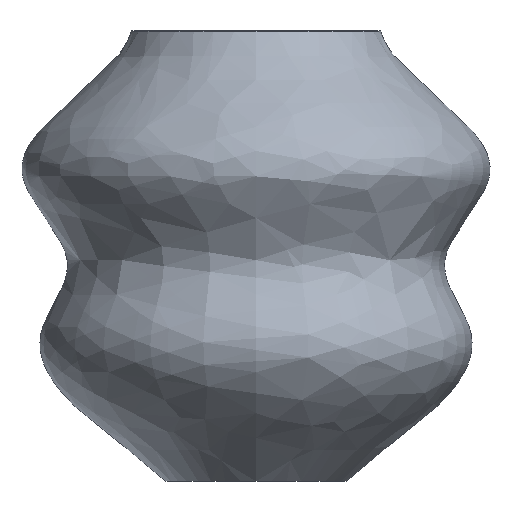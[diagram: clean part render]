
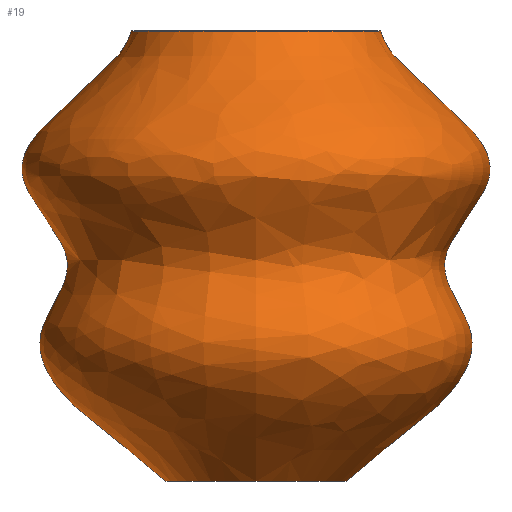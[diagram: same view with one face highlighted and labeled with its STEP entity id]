
A CAD part, front view. The second image highlights one B-rep face of the part: STEP entity #19.
In plain terms, the highlighted free-form (B-spline) face has degree [3, 2] with [7, 5] control points.
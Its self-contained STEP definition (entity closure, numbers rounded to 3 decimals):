
#19=ADVANCED_FACE('',(#30),#158,.T.);
#30=FACE_OUTER_BOUND('',#42,.T.);
#42=EDGE_LOOP('',(#63,#64,#65,#66));
#63=ORIENTED_EDGE('',*,*,#105,.T.);
#64=ORIENTED_EDGE('',*,*,#96,.T.);
#65=ORIENTED_EDGE('',*,*,#106,.F.);
#66=ORIENTED_EDGE('',*,*,#104,.F.);
#96=EDGE_CURVE('',#149,#143,#109,.T.);
#104=EDGE_CURVE('',#150,#151,#140,.T.);
#105=EDGE_CURVE('',#150,#149,#118,.T.);
#106=EDGE_CURVE('',#151,#143,#119,.T.);
#109=B_SPLINE_CURVE_WITH_KNOTS('',3,(#5479,#5480,#5481,#5482,#5483,#5484,
#5485),.UNSPECIFIED.,.F.,.F.,(4,1,1,1,4),(0.892,164.839,
248.255,321.31,549.33),.UNSPECIFIED.);
#118=TRIMMED_CURVE($,#130,(#5547),(#5548),.T.,.CARTESIAN.);
#119=TRIMMED_CURVE($,#131,(#5550),(#5551),.T.,.CARTESIAN.);
#130=CIRCLE('',#263,110.691);
#131=CIRCLE('',#264,80.);
#140=(
BOUNDED_CURVE()
B_SPLINE_CURVE(3,(#5539,#5540,#5541,#5542,#5543,#5544,#5545),
 .UNSPECIFIED.,.F.,.F.)
B_SPLINE_CURVE_WITH_KNOTS((4,1,1,1,4),(0.892,164.839,
248.255,321.31,549.33),.UNSPECIFIED.)
CURVE()
GEOMETRIC_REPRESENTATION_ITEM()
RATIONAL_B_SPLINE_CURVE((1.,1.,1.,1.,1.,1.,1.))
REPRESENTATION_ITEM('')
);
#143=VERTEX_POINT('',#5181);
#149=VERTEX_POINT('',#5187);
#150=VERTEX_POINT('',#5188);
#151=VERTEX_POINT('',#5189);
#158=(
BOUNDED_SURFACE()
B_SPLINE_SURFACE(3,2,((#4964,#4965,#4966,#4967,#4968),(#4969,#4970,#4971,
#4972,#4973),(#4974,#4975,#4976,#4977,#4978),(#4979,#4980,#4981,#4982,#4983),
(#4984,#4985,#4986,#4987,#4988),(#4989,#4990,#4991,#4992,#4993),(#4994,
#4995,#4996,#4997,#4998)),.UNSPECIFIED.,.F.,.F.,.F.)
B_SPLINE_SURFACE_WITH_KNOTS((4,1,1,1,4),(3,2,3),(0.,164.839,248.255,
321.31,549.33),(0.,326.152,652.305),
 .UNSPECIFIED.)
GEOMETRIC_REPRESENTATION_ITEM()
RATIONAL_B_SPLINE_SURFACE(((1.,0.707,1.,0.707,1.),
(1.,0.707,1.,0.707,1.),(1.,0.707,1.,
0.707,1.),(1.,0.707,1.,0.707,1.),(1.,
0.707,1.,0.707,1.),(1.,0.707,1.,0.707,
1.),(1.,0.707,1.,0.707,1.)))
REPRESENTATION_ITEM('')
SURFACE()
);
#263=AXIS2_PLACEMENT_3D($,#5546,#289,#290);
#264=AXIS2_PLACEMENT_3D($,#5549,#291,#292);
#289=DIRECTION('',(0.,0.,-1.));
#290=DIRECTION('',(1.,0.,0.));
#291=DIRECTION('',(0.,0.,-1.));
#292=DIRECTION('',(1.,0.,0.));
#4964=CARTESIAN_POINT('',(790.893,0.,400.));
#4965=CARTESIAN_POINT('',(790.893,-110.5,400.));
#4966=CARTESIAN_POINT('',(901.393,-110.5,400.));
#4967=CARTESIAN_POINT('',(1011.893,-110.5,400.));
#4968=CARTESIAN_POINT('',(1011.893,0.,400.));
#4969=CARTESIAN_POINT('',(779.568,0.,354.281));
#4970=CARTESIAN_POINT('',(779.568,-121.826,354.281));
#4971=CARTESIAN_POINT('',(901.393,-121.826,354.281));
#4972=CARTESIAN_POINT('',(1023.219,-121.826,354.281));
#4973=CARTESIAN_POINT('',(1023.219,0.,354.281));
#4974=CARTESIAN_POINT('',(637.299,0.,299.059));
#4975=CARTESIAN_POINT('',(637.299,-264.094,299.059));
#4976=CARTESIAN_POINT('',(901.393,-264.094,299.059));
#4977=CARTESIAN_POINT('',(1165.488,-264.094,299.059));
#4978=CARTESIAN_POINT('',(1165.488,0.,299.059));
#4979=CARTESIAN_POINT('',(757.52,0.,197.395));
#4980=CARTESIAN_POINT('',(757.52,-143.873,197.395));
#4981=CARTESIAN_POINT('',(901.393,-143.873,197.395));
#4982=CARTESIAN_POINT('',(1045.267,-143.873,197.395));
#4983=CARTESIAN_POINT('',(1045.267,0.,197.395));
#4984=CARTESIAN_POINT('',(661.84,0.,94.907));
#4985=CARTESIAN_POINT('',(661.84,-239.554,94.907));
#4986=CARTESIAN_POINT('',(901.393,-239.554,94.907));
#4987=CARTESIAN_POINT('',(1140.947,-239.554,94.907));
#4988=CARTESIAN_POINT('',(1140.947,0.,94.907));
#4989=CARTESIAN_POINT('',(788.951,0.,35.107));
#4990=CARTESIAN_POINT('',(788.951,-112.442,35.107));
#4991=CARTESIAN_POINT('',(901.393,-112.442,35.107));
#4992=CARTESIAN_POINT('',(1013.836,-112.442,35.107));
#4993=CARTESIAN_POINT('',(1013.836,0.,35.107));
#4994=CARTESIAN_POINT('',(821.393,0.,0.));
#4995=CARTESIAN_POINT('',(821.393,-80.,0.));
#4996=CARTESIAN_POINT('',(901.393,-80.,0.));
#4997=CARTESIAN_POINT('',(981.393,-80.,0.));
#4998=CARTESIAN_POINT('',(981.393,0.,0.));
#5181=CARTESIAN_POINT('',(821.393,0.,0.));
#5187=CARTESIAN_POINT('',(790.702,0.,399.259));
#5188=CARTESIAN_POINT('',(1012.085,0.,399.259));
#5189=CARTESIAN_POINT('',(981.393,0.,0.));
#5479=CARTESIAN_POINT('',(790.702,0.,399.259));
#5480=CARTESIAN_POINT('',(778.549,0.,353.884));
#5481=CARTESIAN_POINT('',(637.633,0.,298.776));
#5482=CARTESIAN_POINT('',(757.52,0.,197.395));
#5483=CARTESIAN_POINT('',(661.84,0.,94.907));
#5484=CARTESIAN_POINT('',(788.951,0.,35.107));
#5485=CARTESIAN_POINT('',(821.393,0.,0.));
#5539=CARTESIAN_POINT('',(1012.085,0.,399.259));
#5540=CARTESIAN_POINT('',(1024.238,0.,353.884));
#5541=CARTESIAN_POINT('',(1165.154,0.,298.776));
#5542=CARTESIAN_POINT('',(1045.267,0.,197.395));
#5543=CARTESIAN_POINT('',(1140.947,0.,94.907));
#5544=CARTESIAN_POINT('',(1013.836,0.,35.107));
#5545=CARTESIAN_POINT('',(981.393,0.,0.));
#5546=CARTESIAN_POINT('',(901.393,0.,399.259));
#5547=CARTESIAN_POINT('',(1012.085,0.,399.259));
#5548=CARTESIAN_POINT('',(790.702,0.,399.259));
#5549=CARTESIAN_POINT('',(901.393,0.,0.));
#5550=CARTESIAN_POINT('',(981.393,0.,0.));
#5551=CARTESIAN_POINT('',(821.393,0.,0.));
